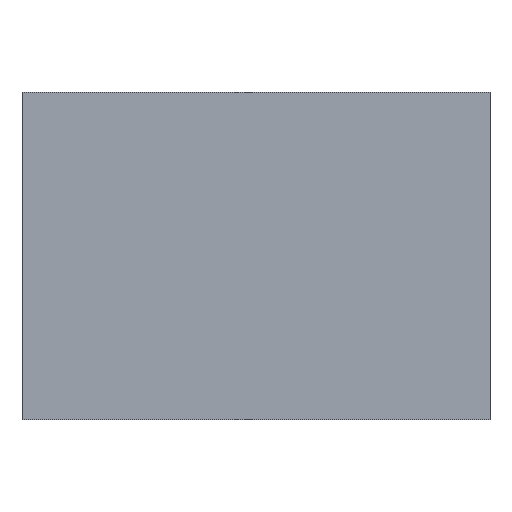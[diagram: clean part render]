
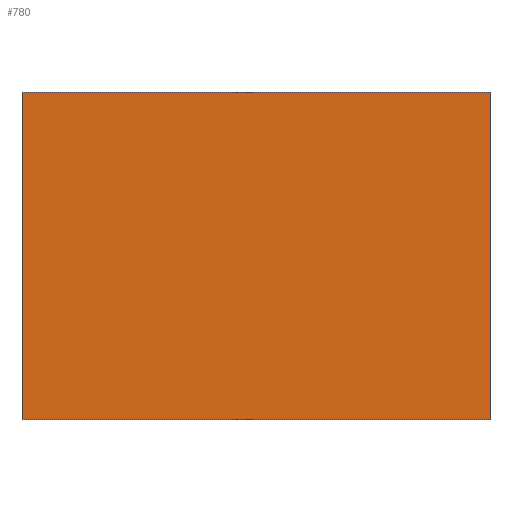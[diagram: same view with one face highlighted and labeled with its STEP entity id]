
A CAD part, top view. The second image highlights one B-rep face of the part: STEP entity #780.
In plain terms, the highlighted planar face has unit normal (0, 0, 1).
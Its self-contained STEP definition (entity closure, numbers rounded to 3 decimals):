
#88=FACE_OUTER_BOUND('',#134,.T.);
#134=EDGE_LOOP('',(#669,#670,#671,#672));
#205=LINE('',#1240,#287);
#209=LINE('',#1248,#291);
#212=LINE('',#1254,#294);
#215=LINE('',#1259,#297);
#287=VECTOR('',#1029,0.7);
#291=VECTOR('',#1035,1.);
#294=VECTOR('',#1040,0.7);
#297=VECTOR('',#1045,1.);
#359=VERTEX_POINT('',#1238);
#360=VERTEX_POINT('',#1239);
#363=VERTEX_POINT('',#1247);
#365=VERTEX_POINT('',#1253);
#457=EDGE_CURVE('',#359,#360,#205,.T.);
#461=EDGE_CURVE('',#360,#363,#209,.T.);
#464=EDGE_CURVE('',#363,#365,#212,.T.);
#467=EDGE_CURVE('',#365,#359,#215,.T.);
#669=ORIENTED_EDGE('',*,*,#457,.F.);
#670=ORIENTED_EDGE('',*,*,#467,.F.);
#671=ORIENTED_EDGE('',*,*,#464,.F.);
#672=ORIENTED_EDGE('',*,*,#461,.F.);
#703=PLANE('',#844);
#780=ADVANCED_FACE('',(#88),#703,.T.);
#844=AXIS2_PLACEMENT_3D('',#1262,#1049,#1050);
#1029=DIRECTION('',(0.,1.,0.));
#1035=DIRECTION('',(1.,0.,0.));
#1040=DIRECTION('',(0.,-1.,0.));
#1045=DIRECTION('',(-1.,0.,0.));
#1049=DIRECTION('center_axis',(0.,0.,1.));
#1050=DIRECTION('ref_axis',(1.,0.,0.));
#1238=CARTESIAN_POINT('',(-0.5,-0.35,0.27));
#1239=CARTESIAN_POINT('',(-0.5,0.35,0.27));
#1240=CARTESIAN_POINT('',(-0.5,0.35,0.27));
#1247=CARTESIAN_POINT('',(0.5,0.35,0.27));
#1248=CARTESIAN_POINT('',(0.5,0.35,0.27));
#1253=CARTESIAN_POINT('',(0.5,-0.35,0.27));
#1254=CARTESIAN_POINT('',(0.5,-0.35,0.27));
#1259=CARTESIAN_POINT('',(-0.5,-0.35,0.27));
#1262=CARTESIAN_POINT('Origin',(0.,0.,
0.27));
